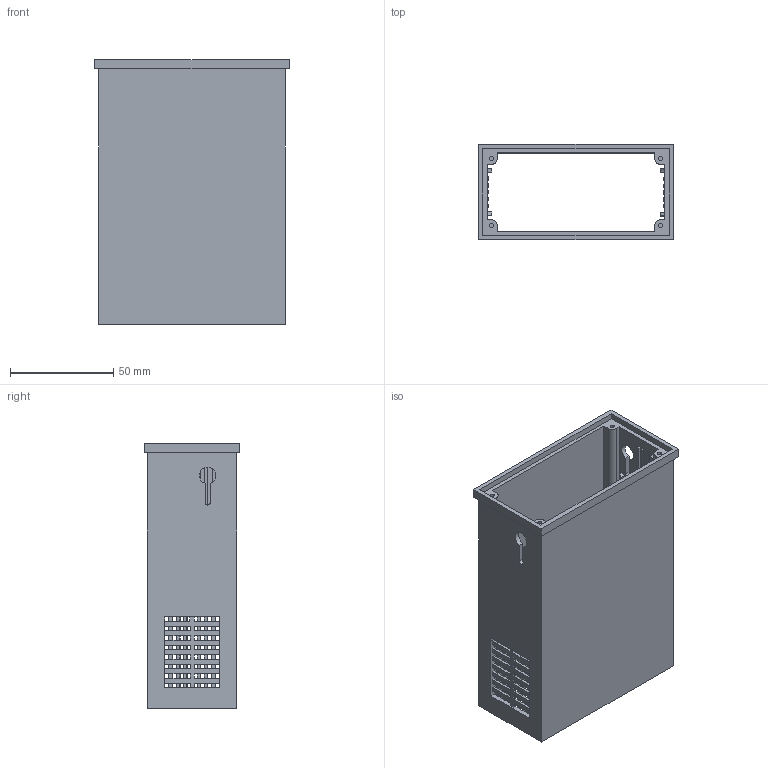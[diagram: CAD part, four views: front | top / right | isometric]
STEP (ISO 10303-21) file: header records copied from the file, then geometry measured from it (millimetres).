
FILE_DESCRIPTION (( 'STEP AP214' ), '1' );
FILE_NAME ('Caixa negre PP11.STEP', '2017-08-10T08:25:38', ( 'aaa' ), ( '' ), 'SwSTEP 2.0', 'SolidWorks 2013', '' );
FILE_SCHEMA (( 'AUTOMOTIVE_DESIGN' ));
Length unit declared in the file: millimetre
Products named in the file (1): Caixa negre PP11
Bounding box: 94.5 x 46.5 x 128.5 mm (x, y, z)
Volume: 91487.7 mm3; surface area: 72722 mm2
Topology: 1 solids, 1 shells, 419 faces, 1536 edges, 896 vertices
Faces by surface type: plane 379, cylinder 40
Entity records: 16096 total; most frequent: ORIENTED_EDGE 3072, CARTESIAN_POINT 2852, DIRECTION 2456, EDGE_CURVE 1536, VECTOR 1456, LINE 1456, VERTEX_POINT 896, AXIS2_PLACEMENT_3D 500
